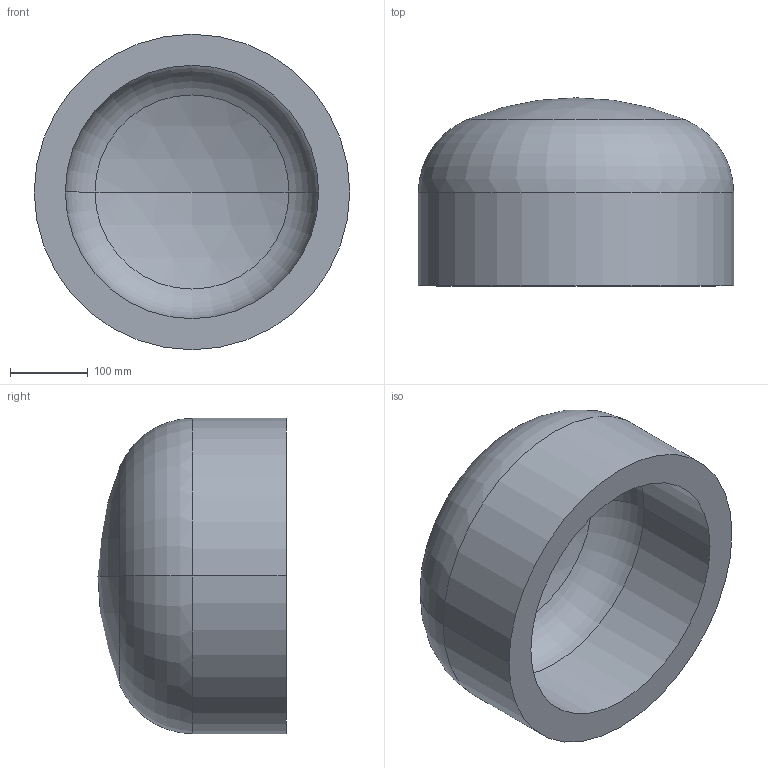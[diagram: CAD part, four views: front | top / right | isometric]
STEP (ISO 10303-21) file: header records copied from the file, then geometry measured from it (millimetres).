
FILE_DESCRIPTION (( 'STEP AP203' ), '1' );
FILE_NAME ('DIN 28013 Korbbogenform_-_Boden DIN 28013 - 406,4 x 120 - I - s=40.step', '2016-07-01T07:50:53', ( '' ), ( '' ), 'SwSTEP 2.0', 'SolidWorks 2013', '' );
FILE_SCHEMA (( 'CONFIG_CONTROL_DESIGN' ));
Length unit declared in the file: millimetre
Products named in the file (1): DIN 28013 Korbbogenform_-_Boden DIN 28013 - 406,4 x 120 - I - s=40
Bounding box: 406.4 x 242.25 x 406.4 mm (x, y, z)
Volume: 11874080.1 mm3; surface area: 643098.2 mm2
Topology: 1 solids, 1 shells, 13 faces, 24 edges, 14 vertices
Faces by surface type: torus 4, cylinder 4, sphere 4, plane 1
Entity records: 407 total; most frequent: DIRECTION 72, CARTESIAN_POINT 52, ORIENTED_EDGE 48, AXIS2_PLACEMENT_3D 34, EDGE_CURVE 24, CIRCLE 20, EDGE_LOOP 14, VERTEX_POINT 14
